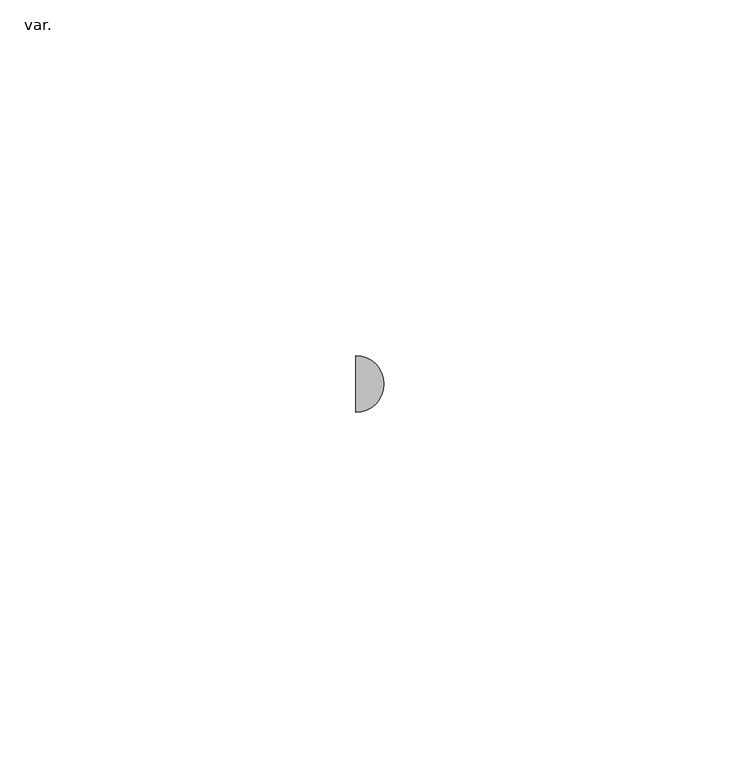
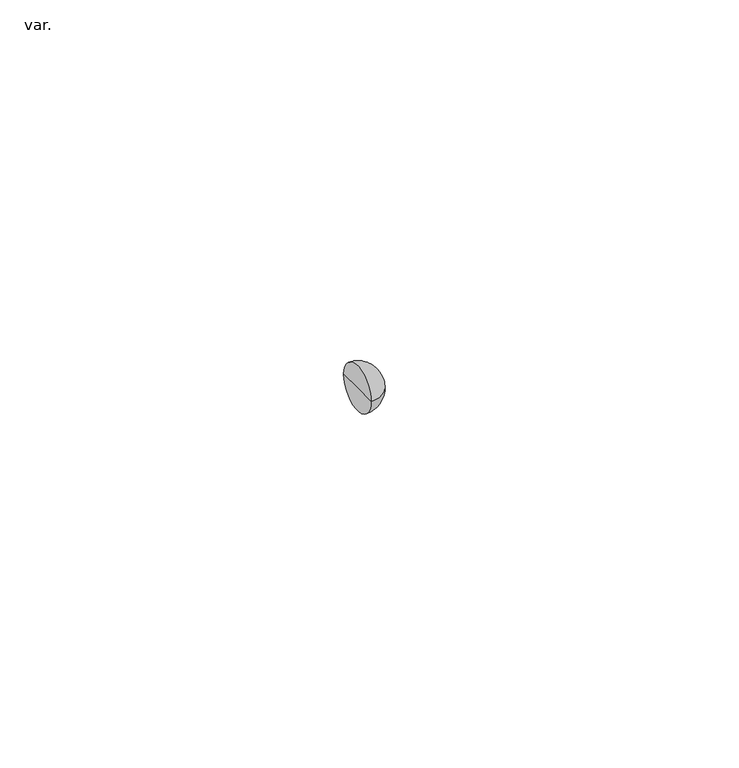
"""IFC4 building model written with IfcOpenShell, lengths in millimetres: pipe fitting geometry, NLRS_52_PIF_UN_Vacurain Flex multi T-stuk_Dyka : var.."""

from ifc_helpers import new_model, si_unit, point, frame, origin, place, context, project, spatial, circle_curve, ellipse_curve, trimmed, source, transform, mapped, element, save
from ifc_brep_helpers import plane_surface, revolved_surface, advanced_brep


def var_9cc1c066(model_context):
    return source(origin(), model_context, "Body", "AdvancedBrep", [
        advanced_brep(
        [(-53.0, 0.0, 0.0), (-53.0, 4.0, 0.0), (-53.0, -4.0, 0.0), (-49.0, 0.0, 0.0)],
        [
            (0, 1),
            (1, 2, circle_curve(frame((-53.0, 0.0, 0.0), z_axis=(-1.0, 0.0, 0.0), x_axis=(0.0, 1.0, 0.0)), 4.0)),
            (2, 0),
            (2, 1, circle_curve(frame((-53.0, 0.0, 0.0), z_axis=(-1.0, 0.0, 0.0), x_axis=(0.0, 1.0, 0.0)), 4.0)),
            (1, 3, circle_curve(frame((-53.0, 0.0, 0.0), z_axis=(0.0, 0.0, -1.0), x_axis=(-1.0, 0.0, 0.0)), 4.0)),
            (3, 2, circle_curve(frame((-53.0, 0.0, 0.0), z_axis=(0.0, 0.0, -1.0), x_axis=(-1.0, 0.0, 0.0)), 4.0)),
        ],
        [
            plane_surface(frame((-53.0, 0.0, 0.0), z_axis=(-1.0, 0.0, 0.0), x_axis=(0.0, 1.0, 0.0))),
            revolved_surface(trimmed(ellipse_curve(frame((-53.0, 0.0, 0.0), z_axis=(0.0, 0.0, 1.0), x_axis=(-1.0, 0.0, 0.0)), 4.0, 4.0), [point((-49.0, 0.0, 0.0))], [point((-53.0, 4.0, 0.0))], True, "CARTESIAN"), (-51.2274263, 0.0, 0.0), (-1.0, 0.0, 0.0)),
        ],
        [
            (0, [[1, 2, 3]]),
            (0, [[-3, 4, -1]]),
            (1, [[-2, 5, 6]]),
            (1, [[-4, -6, -5]]),
        ],
    ),
    ])


if __name__ == "__main__":
    model = new_model("IFC4")
    model_context = context("Model", 3, world=origin())
    ifc_project = project(units=[si_unit("LENGTHUNIT", "METRE", prefix="MILLI")], contexts=[model_context])
    site = spatial("IfcSite", under=ifc_project)
    building = spatial("IfcBuilding", under=site)
    placement = place(None, origin())
    var_shape = var_9cc1c066(model_context)
    element("IfcPipeFitting", 1, ObjectType="NLRS_52_PIF_UN_Vacurain Flex multi T-stuk_Dyka : var.", at=placement, inside=building, context=model_context, shape_type="MappedRepresentation", body=[
        mapped(var_shape, transform((0.0, 0.0, 0.0), x_axis=(1.0, 0.0, 0.0), y_axis=(0.0, 1.0, 0.0), z_axis=(0.0, 0.0, 1.0))),
    ])
    save(model, "model.ifc")
